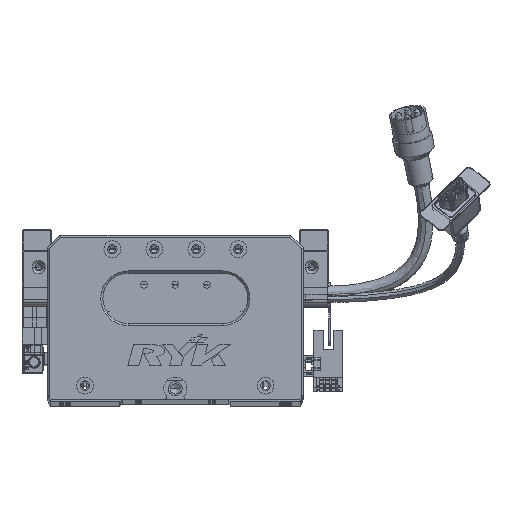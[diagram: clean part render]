
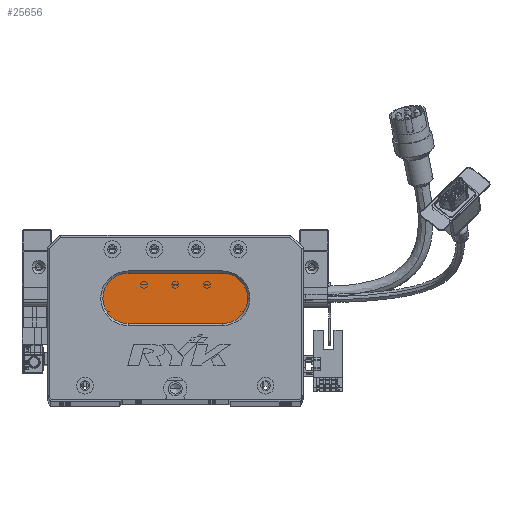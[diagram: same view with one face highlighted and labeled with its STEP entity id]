
A CAD part, top view. The second image highlights one B-rep face of the part: STEP entity #25656.
In plain terms, the highlighted planar face has unit normal (0, 0, 1) as drawn and (0, 0, -1) by its records, which use the part's own axes.
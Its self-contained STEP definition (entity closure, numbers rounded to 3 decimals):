
#708 = CARTESIAN_POINT ( 'NONE',  ( 83.5, 36., 13. ) ) ;
#3022 = EDGE_CURVE ( 'NONE', #46396, #66689, #51141, .T. ) ;
#6587 = CIRCLE ( 'NONE', #14402, 12. ) ;
#7305 = CARTESIAN_POINT ( 'NONE',  ( 83.5, 36., 13. ) ) ;
#7525 = VERTEX_POINT ( 'NONE', #7305 ) ;
#8158 = DIRECTION ( 'NONE',  ( 0., 0., -1. ) ) ;
#9704 = EDGE_CURVE ( 'NONE', #66689, #7525, #71376, .T. ) ;
#9985 = CARTESIAN_POINT ( 'NONE',  ( 38.5, 48., 13. ) ) ;
#14402 = AXIS2_PLACEMENT_3D ( 'NONE', #29680, #36833, #65493 ) ;
#15960 = CARTESIAN_POINT ( 'NONE',  ( 83.5, 48., 13. ) ) ;
#16114 = EDGE_CURVE ( 'NONE', #7525, #67272, #62477, .T. ) ;
#17457 = AXIS2_PLACEMENT_3D ( 'NONE', #89187, #52673, #60198 ) ;
#19163 = FACE_OUTER_BOUND ( 'NONE', #48494, .T. ) ;
#21919 = AXIS2_PLACEMENT_3D ( 'NONE', #15960, #8158, #43053 ) ;
#22316 = VECTOR ( 'NONE', #50535, 1000. ) ;
#25656 = ADVANCED_FACE ( 'NONE', ( #19163 ), #36527, .T. ) ;
#29680 = CARTESIAN_POINT ( 'NONE',  ( 38.5, 48., 13. ) ) ;
#36527 = PLANE ( 'NONE',  #21919 ) ;
#36833 = DIRECTION ( 'NONE',  ( 0., 0., -1. ) ) ;
#40696 = VERTEX_POINT ( 'NONE', #90959 ) ;
#43053 = DIRECTION ( 'NONE',  ( -1., 0., 0. ) ) ;
#46396 = VERTEX_POINT ( 'NONE', #80204 ) ;
#47079 = ORIENTED_EDGE ( 'NONE', *, *, #9704, .T. ) ;
#47876 = CARTESIAN_POINT ( 'NONE',  ( 83.5, 60., 13. ) ) ;
#48494 = EDGE_LOOP ( 'NONE', ( #47079, #76297, #78152, #56992, #54958 ) ) ;
#50535 = DIRECTION ( 'NONE',  ( -1., 0., 0. ) ) ;
#51141 = LINE ( 'NONE', #47876, #84651 ) ;
#52673 = DIRECTION ( 'NONE',  ( 0., 0., -1. ) ) ;
#54958 = ORIENTED_EDGE ( 'NONE', *, *, #3022, .T. ) ;
#56992 = ORIENTED_EDGE ( 'NONE', *, *, #91216, .T. ) ;
#59527 = EDGE_CURVE ( 'NONE', #67272, #40696, #66169, .T. ) ;
#60198 = DIRECTION ( 'NONE',  ( -1., 0., 0. ) ) ;
#62477 = LINE ( 'NONE', #708, #22316 ) ;
#63470 = DIRECTION ( 'NONE',  ( 1., 0., 0. ) ) ;
#65493 = DIRECTION ( 'NONE',  ( -1., 0., 0. ) ) ;
#66169 = CIRCLE ( 'NONE', #84752, 12. ) ;
#66689 = VERTEX_POINT ( 'NONE', #89725 ) ;
#67272 = VERTEX_POINT ( 'NONE', #77637 ) ;
#71376 = CIRCLE ( 'NONE', #17457, 12. ) ;
#74537 = DIRECTION ( 'NONE',  ( 0., 0., -1. ) ) ;
#76297 = ORIENTED_EDGE ( 'NONE', *, *, #16114, .T. ) ;
#77637 = CARTESIAN_POINT ( 'NONE',  ( 38.5, 36., 13. ) ) ;
#78152 = ORIENTED_EDGE ( 'NONE', *, *, #59527, .T. ) ;
#80204 = CARTESIAN_POINT ( 'NONE',  ( 38.5, 60., 13. ) ) ;
#84651 = VECTOR ( 'NONE', #63470, 1000. ) ;
#84752 = AXIS2_PLACEMENT_3D ( 'NONE', #9985, #74537, #88278 ) ;
#88278 = DIRECTION ( 'NONE',  ( -1., 0., 0. ) ) ;
#89187 = CARTESIAN_POINT ( 'NONE',  ( 83.5, 48., 13. ) ) ;
#89725 = CARTESIAN_POINT ( 'NONE',  ( 83.5, 60., 13. ) ) ;
#90959 = CARTESIAN_POINT ( 'NONE',  ( 26.5, 48., 13. ) ) ;
#91216 = EDGE_CURVE ( 'NONE', #40696, #46396, #6587, .T. ) ;
